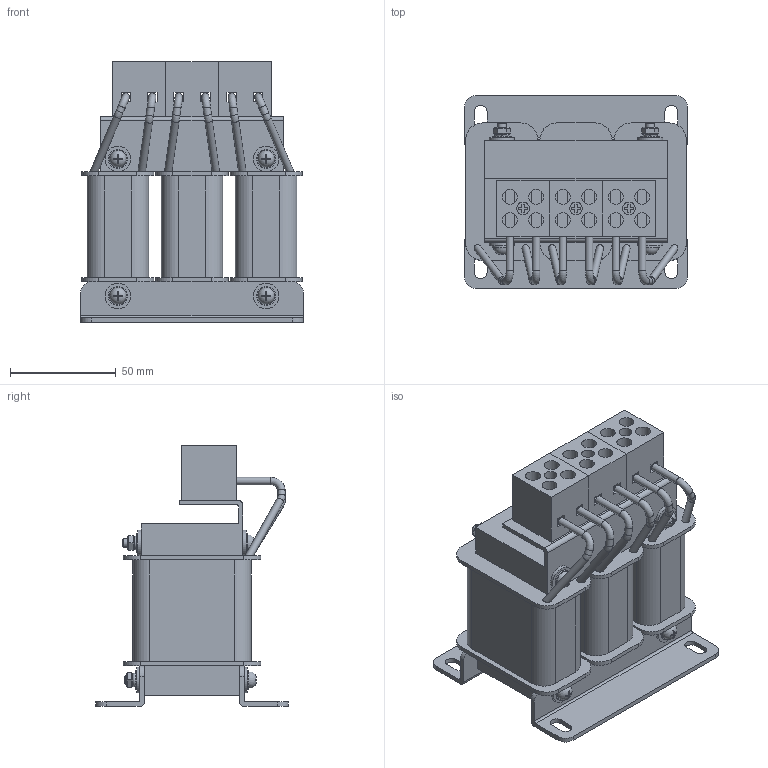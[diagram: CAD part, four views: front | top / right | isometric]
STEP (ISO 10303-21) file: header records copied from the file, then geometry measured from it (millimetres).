
FILE_DESCRIPTION(('STEP AP203'), '1');
FILE_NAME('栖闉罻 _ ISF-2.2_5.8-4', '', ('UNSPECIFIED'), ('UNSPECIFIED'), 'ASCON STEP Converter 1.6', 'ASCON Math Kernel', '');
FILE_SCHEMA(('CONFIG_CONTROL_DESIGN'));
Length unit declared in the file: millimetre
Products named in the file (13): ISF-2.2_5.8-4
Assembly tree (45 placements, depth 2):
  ISF-2.2_5.8-4
    ISF-2.2_5.8-4
    ISF-2.2_5.8-4  x2
    ISF-2.2_5.8-4  x6
    ISF-2.2_5.8-4  x3
    ISF-2.2_5.8-4
    ISF-2.2_5.8-4  x3
    ISF-2.2_5.8-4  x8
    ISF-2.2_5.8-4  x8
    ISF-2.2_5.8-4  x4
    ISF-2.2_5.8-4  x4
    ISF-2.2_5.8-4
    ISF-2.2_5.8-4  x4
Bounding box: 105 x 91 x 123.2 mm (x, y, z)
Volume: 438146 mm3; surface area: 140275 mm2
Topology: 50 solids, 50 shells, 635 faces, 1509 edges, 978 vertices
Faces by surface type: plane 460, cylinder 139, torus 24, cone 12
Full cylindrical faces by diameter (mm): 3.5 x18, 4 x32, 6 x3, 7 x12, 9 x8, 12 x8
Entity records: 8146 total; most frequent: CARTESIAN_POINT 1570, DIRECTION 1116, ORIENTED_EDGE 942, EDGE_CURVE 471, AXIS2_PLACEMENT_3D 400, VERTEX_POINT 335, LINE 316, VECTOR 316
